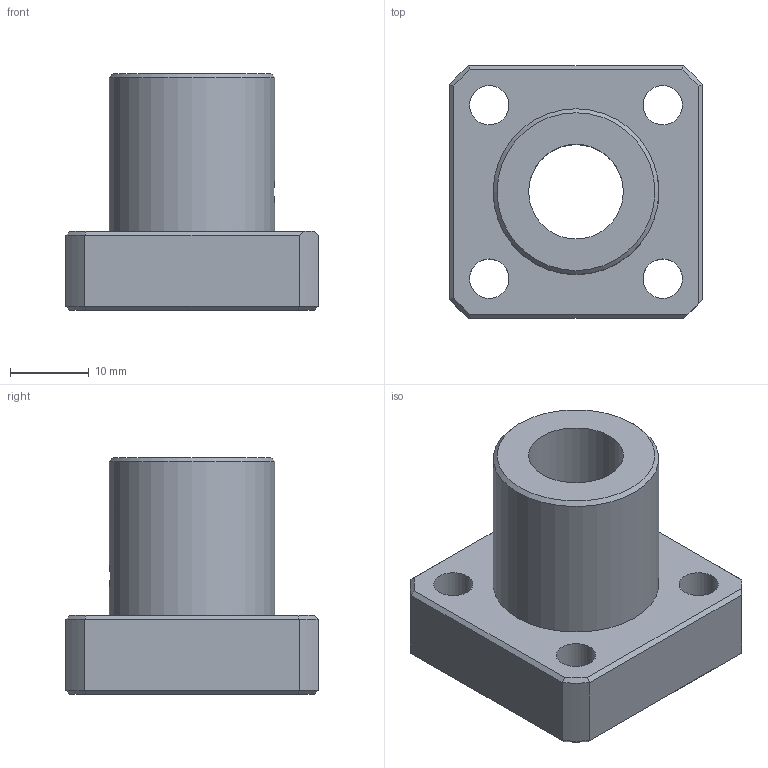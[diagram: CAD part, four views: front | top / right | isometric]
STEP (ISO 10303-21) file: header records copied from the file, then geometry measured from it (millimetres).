
FILE_DESCRIPTION((''),'2;1');
FILE_NAME('D:\製品 (図面)\カタログ用3D\シャフトブロック関連\STEP形式\SFW\SFW12.stp','2010-06-01T16:31:45',('Tsuchiya'),(''),'Autodesk Inventor 10','Autodesk Inventor 10','');
FILE_SCHEMA(('AUTOMOTIVE_DESIGN { 1 0 10303 214 1 1 1 1 }'));
Length unit declared in the file: millimetre
Products named in the file (1): SFW12
Bounding box: 32 x 32 x 30 mm (x, y, z)
Volume: 12819 mm3; surface area: 5873.4 mm2
Topology: 1 solids, 1 shells, 52 faces, 128 edges, 82 vertices
Faces by surface type: plane 29, cylinder 10, cone 9, bspline 4
Full cylindrical faces by diameter (mm): 5 x4, 12 x1, 21 x1
Entity records: 1599 total; most frequent: CARTESIAN_POINT 430, DIRECTION 224, ORIENTED_EDGE 222, EDGE_CURVE 111, AXIS2_PLACEMENT_3D 82, EDGE_LOOP 77, VERTEX_POINT 76, VECTOR 60
